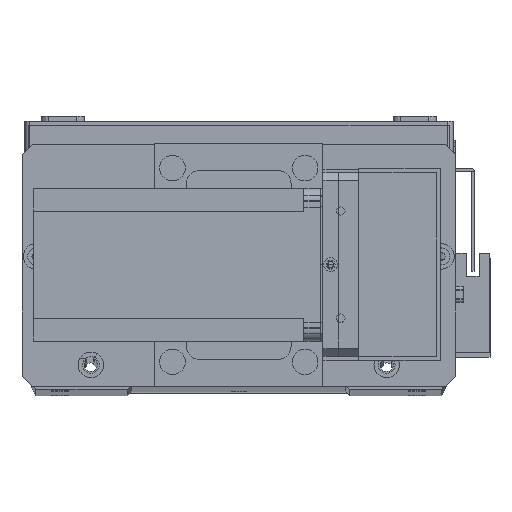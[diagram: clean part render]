
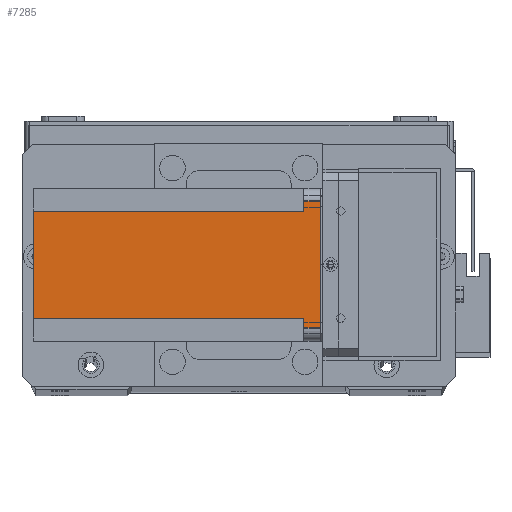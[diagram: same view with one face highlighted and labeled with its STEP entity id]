
A CAD part, top view. The second image highlights one B-rep face of the part: STEP entity #7285.
In plain terms, the highlighted planar face has unit normal (0, 0, 1) as drawn and (-1, 0, 0) by its records, which use the part's own axes.
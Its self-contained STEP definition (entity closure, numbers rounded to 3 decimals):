
#287 = VECTOR ( 'NONE', #17899, 1000. ) ;
#853 = LINE ( 'NONE', #17793, #287 ) ;
#1297 = CARTESIAN_POINT ( 'NONE',  ( 0., 9., -6.5 ) ) ;
#4535 = CARTESIAN_POINT ( 'NONE',  ( 0., 5., 0. ) ) ;
#4563 = LINE ( 'NONE', #12026, #8580 ) ;
#5016 = FACE_OUTER_BOUND ( 'NONE', #9551, .T. ) ;
#6815 = LINE ( 'NONE', #14062, #31126 ) ;
#6914 = CARTESIAN_POINT ( 'NONE',  ( 0., 55., -6.5 ) ) ;
#7285 = ADVANCED_FACE ( 'NONE', ( #5016 ), #27698, .T. ) ;
#8580 = VECTOR ( 'NONE', #11982, 1000. ) ;
#9551 = EDGE_LOOP ( 'NONE', ( #26945, #26157, #28156, #26969, #29031, #29630, #30095, #30728 ) ) ;
#10231 = EDGE_CURVE ( 'NONE', #15443, #30878, #853, .T. ) ;
#10416 = EDGE_CURVE ( 'NONE', #18108, #15937, #12840, .T. ) ;
#10511 = EDGE_CURVE ( 'NONE', #18108, #30878, #6815, .T. ) ;
#10516 = EDGE_CURVE ( 'NONE', #15443, #30020, #26197, .T. ) ;
#10613 = EDGE_CURVE ( 'NONE', #31786, #30020, #15716, .T. ) ;
#10649 = EDGE_CURVE ( 'NONE', #18082, #31786, #4563, .T. ) ;
#10703 = EDGE_CURVE ( 'NONE', #18082, #21605, #31628, .T. ) ;
#10712 = EDGE_CURVE ( 'NONE', #15937, #21605, #18945, .T. ) ;
#10902 = DIRECTION ( 'NONE',  ( 0., 0., -1. ) ) ;
#10913 = CARTESIAN_POINT ( 'NONE',  ( 0., 9., -112.5 ) ) ;
#11363 = DIRECTION ( 'NONE',  ( 0., -1., 0. ) ) ;
#11372 = VECTOR ( 'NONE', #12722, 1000. ) ;
#11982 = DIRECTION ( 'NONE',  ( 0., 0., 1. ) ) ;
#12026 = CARTESIAN_POINT ( 'NONE',  ( 0., 51., -112.5 ) ) ;
#12089 = CARTESIAN_POINT ( 'NONE',  ( 0., 0., -112.5 ) ) ;
#12285 = AXIS2_PLACEMENT_3D ( 'NONE', #25845, #25189, #25518 ) ;
#12586 = CARTESIAN_POINT ( 'NONE',  ( 0., 55., 0. ) ) ;
#12722 = DIRECTION ( 'NONE',  ( 0., 1., 0. ) ) ;
#12840 = LINE ( 'NONE', #15583, #24172 ) ;
#12962 = CARTESIAN_POINT ( 'NONE',  ( 0., 60., -6.5 ) ) ;
#13863 = DIRECTION ( 'NONE',  ( 0., 0., 1. ) ) ;
#13870 = CARTESIAN_POINT ( 'NONE',  ( 0., 55., -112.5 ) ) ;
#13906 = DIRECTION ( 'NONE',  ( 0., 0., -1. ) ) ;
#14062 = CARTESIAN_POINT ( 'NONE',  ( 0., 5., -112.5 ) ) ;
#15443 = VERTEX_POINT ( 'NONE', #12586 ) ;
#15583 = CARTESIAN_POINT ( 'NONE',  ( 0., 0., -6.5 ) ) ;
#15606 = DIRECTION ( 'NONE',  ( 0., 1., 0. ) ) ;
#15716 = LINE ( 'NONE', #12962, #11372 ) ;
#15937 = VERTEX_POINT ( 'NONE', #1297 ) ;
#16642 = CARTESIAN_POINT ( 'NONE',  ( 0., 5., -6.5 ) ) ;
#17793 = CARTESIAN_POINT ( 'NONE',  ( 0., 0., 0. ) ) ;
#17899 = DIRECTION ( 'NONE',  ( 0., -1., 0. ) ) ;
#18082 = VERTEX_POINT ( 'NONE', #19694 ) ;
#18108 = VERTEX_POINT ( 'NONE', #16642 ) ;
#18945 = LINE ( 'NONE', #10913, #22089 ) ;
#19694 = CARTESIAN_POINT ( 'NONE',  ( 0., 51., -112.5 ) ) ;
#21605 = VERTEX_POINT ( 'NONE', #28366 ) ;
#21971 = VECTOR ( 'NONE', #13906, 1000. ) ;
#22089 = VECTOR ( 'NONE', #10902, 1000. ) ;
#24172 = VECTOR ( 'NONE', #15606, 1000. ) ;
#25167 = VECTOR ( 'NONE', #11363, 1000. ) ;
#25189 = DIRECTION ( 'NONE',  ( -1., 0., 0. ) ) ;
#25518 = DIRECTION ( 'NONE',  ( 0., -1., 0. ) ) ;
#25840 = CARTESIAN_POINT ( 'NONE',  ( 0., 51., -6.5 ) ) ;
#25845 = CARTESIAN_POINT ( 'NONE',  ( 0., 0., -112.5 ) ) ;
#26157 = ORIENTED_EDGE ( 'NONE', *, *, #10511, .T. ) ;
#26197 = LINE ( 'NONE', #13870, #21971 ) ;
#26945 = ORIENTED_EDGE ( 'NONE', *, *, #10416, .F. ) ;
#26969 = ORIENTED_EDGE ( 'NONE', *, *, #10516, .T. ) ;
#27698 = PLANE ( 'NONE',  #12285 ) ;
#28156 = ORIENTED_EDGE ( 'NONE', *, *, #10231, .F. ) ;
#28366 = CARTESIAN_POINT ( 'NONE',  ( 0., 9., -112.5 ) ) ;
#29031 = ORIENTED_EDGE ( 'NONE', *, *, #10613, .F. ) ;
#29630 = ORIENTED_EDGE ( 'NONE', *, *, #10649, .F. ) ;
#30020 = VERTEX_POINT ( 'NONE', #6914 ) ;
#30095 = ORIENTED_EDGE ( 'NONE', *, *, #10703, .T. ) ;
#30728 = ORIENTED_EDGE ( 'NONE', *, *, #10712, .F. ) ;
#30878 = VERTEX_POINT ( 'NONE', #4535 ) ;
#31126 = VECTOR ( 'NONE', #13863, 1000. ) ;
#31628 = LINE ( 'NONE', #12089, #25167 ) ;
#31786 = VERTEX_POINT ( 'NONE', #25840 ) ;
